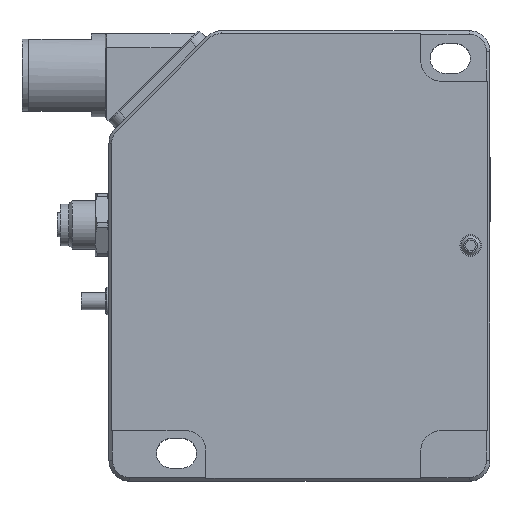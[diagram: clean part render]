
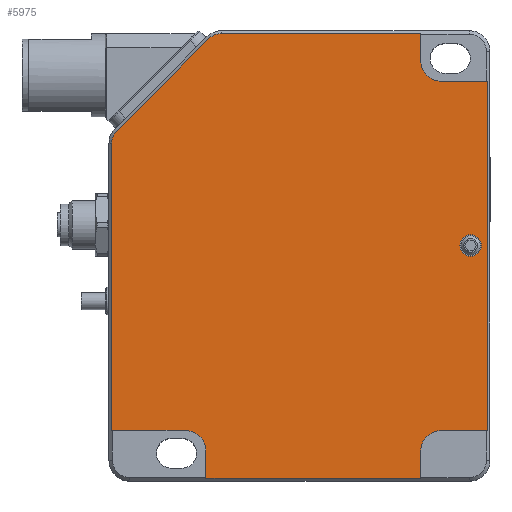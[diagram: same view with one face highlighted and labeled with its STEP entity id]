
A CAD part, top view. The second image highlights one B-rep face of the part: STEP entity #5975.
In plain terms, the highlighted planar face has unit normal (0, 0, 1).
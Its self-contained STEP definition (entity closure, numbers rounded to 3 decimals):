
#269=PLANE('',#6621);
#577=LINE('',#10236,#945);
#586=LINE('',#10251,#954);
#589=LINE('',#10261,#957);
#598=LINE('',#10283,#966);
#602=LINE('',#10292,#970);
#604=LINE('',#10298,#972);
#607=LINE('',#10305,#975);
#610=LINE('',#10313,#978);
#613=LINE('',#10321,#981);
#614=LINE('',#10322,#982);
#615=LINE('',#10323,#983);
#945=VECTOR('',#8036,10.);
#954=VECTOR('',#8049,10.);
#957=VECTOR('',#8058,10.);
#966=VECTOR('',#8077,10.);
#970=VECTOR('',#8087,10.);
#972=VECTOR('',#8095,10.);
#975=VECTOR('',#8104,10.);
#978=VECTOR('',#8113,10.);
#981=VECTOR('',#8122,10.);
#982=VECTOR('',#8123,10.);
#983=VECTOR('',#8124,10.);
#1292=FACE_BOUND('',#2109,.T.);
#1617=FACE_OUTER_BOUND('',#2108,.T.);
#2108=EDGE_LOOP('',(#4899,#4900,#4901,#4902,#4903,#4904,#4905,#4906,#4907,
#4908,#4909,#4910,#4911,#4912,#4913,#4914));
#2109=EDGE_LOOP('',(#4915));
#2482=CIRCLE('',#6608,2.6);
#2483=CIRCLE('',#6611,2.6);
#2484=CIRCLE('',#6614,3.);
#2485=CIRCLE('',#6617,3.);
#2486=CIRCLE('',#6620,3.);
#2487=CIRCLE('',#6622,1.55);
#2941=VERTEX_POINT('',#10234);
#2942=VERTEX_POINT('',#10235);
#2943=VERTEX_POINT('',#10243);
#2946=VERTEX_POINT('',#10249);
#2949=VERTEX_POINT('',#10258);
#2950=VERTEX_POINT('',#10260);
#2957=VERTEX_POINT('',#10281);
#2958=VERTEX_POINT('',#10282);
#2959=VERTEX_POINT('',#10287);
#2960=VERTEX_POINT('',#10291);
#2961=VERTEX_POINT('',#10297);
#2962=VERTEX_POINT('',#10301);
#2963=VERTEX_POINT('',#10307);
#2964=VERTEX_POINT('',#10309);
#2965=VERTEX_POINT('',#10315);
#2966=VERTEX_POINT('',#10317);
#2967=VERTEX_POINT('',#10324);
#3604=EDGE_CURVE('',#2941,#2942,#577,.T.);
#3613=EDGE_CURVE('',#2946,#2943,#586,.T.);
#3617=EDGE_CURVE('',#2949,#2950,#589,.T.);
#3628=EDGE_CURVE('',#2957,#2958,#598,.T.);
#3631=EDGE_CURVE('',#2959,#2957,#2482,.T.);
#3633=EDGE_CURVE('',#2960,#2959,#602,.T.);
#3635=EDGE_CURVE('',#2942,#2960,#2483,.T.);
#3636=EDGE_CURVE('',#2950,#2961,#604,.T.);
#3638=EDGE_CURVE('',#2961,#2962,#2484,.T.);
#3640=EDGE_CURVE('',#2962,#2946,#607,.T.);
#3642=EDGE_CURVE('',#2963,#2964,#2485,.T.);
#3644=EDGE_CURVE('',#2964,#2941,#610,.T.);
#3646=EDGE_CURVE('',#2965,#2966,#2486,.T.);
#3648=EDGE_CURVE('',#2943,#2963,#613,.T.);
#3649=EDGE_CURVE('',#2966,#2949,#614,.T.);
#3650=EDGE_CURVE('',#2958,#2965,#615,.T.);
#3651=EDGE_CURVE('',#2967,#2967,#2487,.T.);
#4899=ORIENTED_EDGE('',*,*,#3604,.F.);
#4900=ORIENTED_EDGE('',*,*,#3644,.F.);
#4901=ORIENTED_EDGE('',*,*,#3642,.F.);
#4902=ORIENTED_EDGE('',*,*,#3648,.F.);
#4903=ORIENTED_EDGE('',*,*,#3613,.F.);
#4904=ORIENTED_EDGE('',*,*,#3640,.F.);
#4905=ORIENTED_EDGE('',*,*,#3638,.F.);
#4906=ORIENTED_EDGE('',*,*,#3636,.F.);
#4907=ORIENTED_EDGE('',*,*,#3617,.F.);
#4908=ORIENTED_EDGE('',*,*,#3649,.F.);
#4909=ORIENTED_EDGE('',*,*,#3646,.F.);
#4910=ORIENTED_EDGE('',*,*,#3650,.F.);
#4911=ORIENTED_EDGE('',*,*,#3628,.F.);
#4912=ORIENTED_EDGE('',*,*,#3631,.F.);
#4913=ORIENTED_EDGE('',*,*,#3633,.F.);
#4914=ORIENTED_EDGE('',*,*,#3635,.F.);
#4915=ORIENTED_EDGE('',*,*,#3651,.T.);
#5975=ADVANCED_FACE('',(#1617,#1292),#269,.T.);
#6608=AXIS2_PLACEMENT_3D('',#10288,#8082,#8083);
#6611=AXIS2_PLACEMENT_3D('',#10295,#8091,#8092);
#6614=AXIS2_PLACEMENT_3D('',#10302,#8099,#8100);
#6617=AXIS2_PLACEMENT_3D('',#10310,#8108,#8109);
#6620=AXIS2_PLACEMENT_3D('',#10318,#8117,#8118);
#6621=AXIS2_PLACEMENT_3D('',#10320,#8120,#8121);
#6622=AXIS2_PLACEMENT_3D('',#10325,#8125,#8126);
#8036=DIRECTION('',(0.,1.,0.));
#8049=DIRECTION('',(-1.,0.,0.));
#8058=DIRECTION('',(0.,-1.,0.));
#8077=DIRECTION('',(1.,0.,0.));
#8082=DIRECTION('center_axis',(0.,0.,-1.));
#8083=DIRECTION('ref_axis',(-0.383,0.924,0.));
#8087=DIRECTION('',(0.707,0.707,0.));
#8091=DIRECTION('center_axis',(0.,0.,-1.));
#8092=DIRECTION('ref_axis',(-0.924,0.383,0.));
#8095=DIRECTION('',(-1.,0.,0.));
#8099=DIRECTION('center_axis',(0.,0.,1.));
#8100=DIRECTION('ref_axis',(0.,1.,0.));
#8104=DIRECTION('',(0.,-1.,0.));
#8108=DIRECTION('center_axis',(0.,0.,1.));
#8109=DIRECTION('ref_axis',(1.,0.,0.));
#8113=DIRECTION('',(-1.,0.,0.));
#8117=DIRECTION('center_axis',(0.,0.,1.));
#8118=DIRECTION('ref_axis',(-1.,0.,0.));
#8120=DIRECTION('center_axis',(0.,0.,1.));
#8121=DIRECTION('ref_axis',(1.,0.,0.));
#8122=DIRECTION('',(0.,1.,0.));
#8123=DIRECTION('',(1.,0.,0.));
#8124=DIRECTION('',(0.,-1.,0.));
#8125=DIRECTION('center_axis',(0.,0.,-1.));
#8126=DIRECTION('ref_axis',(1.,0.,0.));
#10234=CARTESIAN_POINT('',(-29.319,-25.853,10.1));
#10235=CARTESIAN_POINT('',(-29.319,15.605,10.1));
#10236=CARTESIAN_POINT('',(-29.319,3.825,10.1));
#10243=CARTESIAN_POINT('',(-15.719,-32.753,10.1));
#10249=CARTESIAN_POINT('',(15.281,-32.753,10.1));
#10251=CARTESIAN_POINT('',(-9.277,-32.753,10.1));
#10258=CARTESIAN_POINT('',(24.881,24.547,10.1));
#10260=CARTESIAN_POINT('',(24.881,-25.853,10.1));
#10261=CARTESIAN_POINT('',(24.881,-8.675,10.1));
#10281=CARTESIAN_POINT('',(-13.477,31.447,10.1));
#10282=CARTESIAN_POINT('',(15.281,31.447,10.1));
#10283=CARTESIAN_POINT('',(4.473,31.447,10.1));
#10287=CARTESIAN_POINT('',(-15.315,30.686,10.1));
#10288=CARTESIAN_POINT('Origin',(-13.477,28.847,10.1));
#10291=CARTESIAN_POINT('',(-28.558,17.443,10.1));
#10292=CARTESIAN_POINT('',(-21.976,24.024,10.1));
#10295=CARTESIAN_POINT('Origin',(-26.719,15.605,10.1));
#10297=CARTESIAN_POINT('',(18.281,-25.853,10.1));
#10298=CARTESIAN_POINT('',(30.171,-25.853,10.1));
#10301=CARTESIAN_POINT('',(15.281,-28.853,10.1));
#10302=CARTESIAN_POINT('Origin',(18.281,-28.853,10.1));
#10305=CARTESIAN_POINT('',(15.281,-28.853,10.1));
#10307=CARTESIAN_POINT('',(-15.719,-28.853,10.1));
#10309=CARTESIAN_POINT('',(-18.719,-25.853,10.1));
#10310=CARTESIAN_POINT('Origin',(-18.719,-28.853,10.1));
#10313=CARTESIAN_POINT('',(-18.719,-25.853,10.1));
#10315=CARTESIAN_POINT('',(15.281,27.547,10.1));
#10317=CARTESIAN_POINT('',(18.281,24.547,10.1));
#10318=CARTESIAN_POINT('Origin',(18.281,27.547,10.1));
#10320=CARTESIAN_POINT('Origin',(-3.209,0.272,10.1));
#10321=CARTESIAN_POINT('',(-15.719,-39.421,10.1));
#10322=CARTESIAN_POINT('',(18.281,24.547,10.1));
#10323=CARTESIAN_POINT('',(15.281,38.728,10.1));
#10324=CARTESIAN_POINT('',(24.031,0.847,10.1));
#10325=CARTESIAN_POINT('Origin',(22.481,0.847,10.1));
